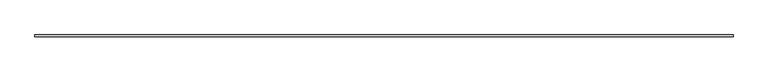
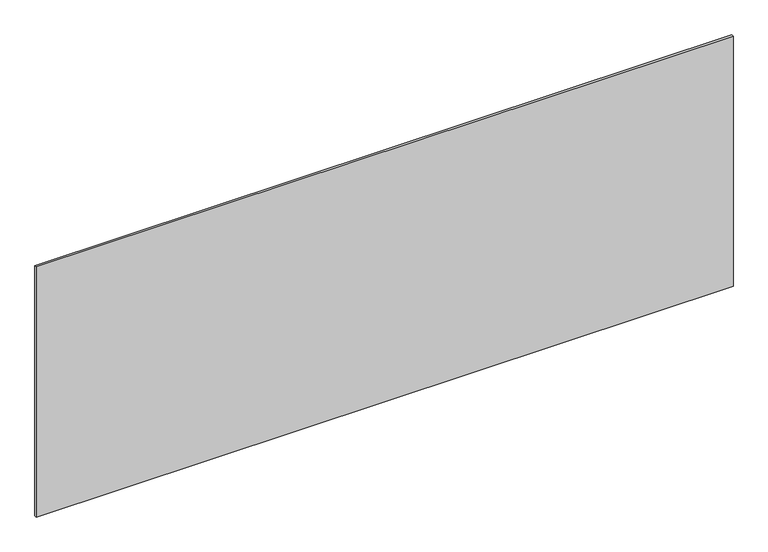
"""IFC4 building model written with IfcOpenShell, lengths in millimetres: plate geometry, システム パネル : 標準."""

from ifc_helpers import new_model, si_unit, origin, origin_with_axes, place, context, project, spatial, polyline, outline, extrude, source, transform, mapped, element, save


def plate_7301dfc9(model_context):
    return source(origin(), model_context, "Body", "SweptSolid", [
        extrude(outline(polyline([(1697.5, -5.0), (-1697.5, -5.0), (-1697.5, 5.0), (1697.5, 5.0), (1697.5, -5.0)])), origin_with_axes(), (0.0, 0.0, 1.0), 1288.1660768),
    ])


if __name__ == "__main__":
    model = new_model("IFC4")
    model_context = context("Model", 3, world=origin())
    ifc_project = project(units=[si_unit("LENGTHUNIT", "METRE", prefix="MILLI")], contexts=[model_context])
    site = spatial("IfcSite", under=ifc_project)
    building = spatial("IfcBuilding", under=site)
    placement = place(None, origin())
    plate_shape = plate_7301dfc9(model_context)
    element("IfcPlate", 1, ObjectType="システム パネル : 標準", at=placement, inside=building, context=model_context, shape_type="MappedRepresentation", body=[
        mapped(plate_shape, transform((0.0, 0.0, 0.0), x_axis=(1.0, 0.0, 0.0), y_axis=(0.0, 1.0, 0.0), z_axis=(0.0, 0.0, 1.0))),
    ])
    save(model, "model.ifc")
